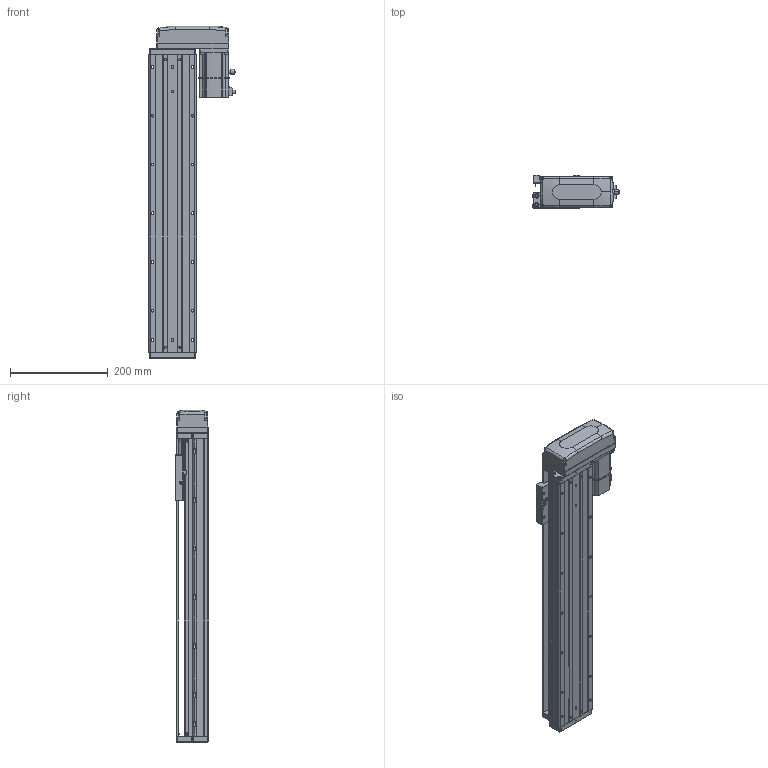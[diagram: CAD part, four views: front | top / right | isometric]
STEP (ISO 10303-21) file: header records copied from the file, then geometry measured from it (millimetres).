
FILE_DESCRIPTION (( 'STEP AP203' ), '1' );
FILE_NAME ('KTHA100-450-BL-M20-C4L.step', '2022-04-26T01:48:47', ( '微软用户' ), ( '微软中国' ), 'SwSTEP 2.0', 'SolidWorks 2020', '' );
FILE_SCHEMA (( 'CONFIG_CONTROL_DESIGN' ));
Length unit declared in the file: millimetre
Products named in the file (17): GBT 70.3-M3℅6; KTHA100-002; CTHA60-017; _X2_4E0983F1_X0_200W_1; CTHA60-021; CTHA86-015-1_CTHA86-015-2; GBT77-2000 M3×3; CTHA86-033; KTHA100-004; GBT 70.1-M3℅6; KTHA100-450-BL-M20-C4L; KTHA100-005; GBT70.1 M5℅16; GB¨uT 70.2-M3¡Á5_M3¡Á6; CTHA60-016; KTHA100-001_610; EE_SX911P_R
Assembly tree (57 placements, depth 2):
  KTHA100-450-BL-M20-C4L
    KTHA100-001_610
    KTHA100-002
    KTHA100-004
    KTHA100-005
    GB¨uT 70.2-M3¡Á5_M3¡Á6  x6
    EE_SX911P_R  x3
    CTHA60-017  x3
    CTHA60-021  x2
    GBT77-2000 M3×3  x6
    GBT 70.1-M3℅6  x10
    GBT70.1 M5℅16  x14
    CTHA60-016  x2
    GBT 70.3-M3℅6  x4
    _X2_4E0983F1_X0_200W_1
    CTHA86-015-1_CTHA86-015-2
    CTHA86-033
Bounding box: 177.7 x 68 x 681 mm (x, y, z)
Volume: 3158514.8 mm3; surface area: 519997.4 mm2
Topology: 60 solids, 60 shells, 2417 faces, 5777 edges, 3580 vertices
Faces by surface type: plane 1232, cylinder 671, cone 307, torus 116, bspline 75, sphere 16
Entity records: 41302 total; most frequent: CARTESIAN_POINT 8336, DIRECTION 6382, ORIENTED_EDGE 6166, EDGE_CURVE 3083, AXIS2_PLACEMENT_3D 2234, VERTEX_POINT 1940, VECTOR 1914, LINE 1914
